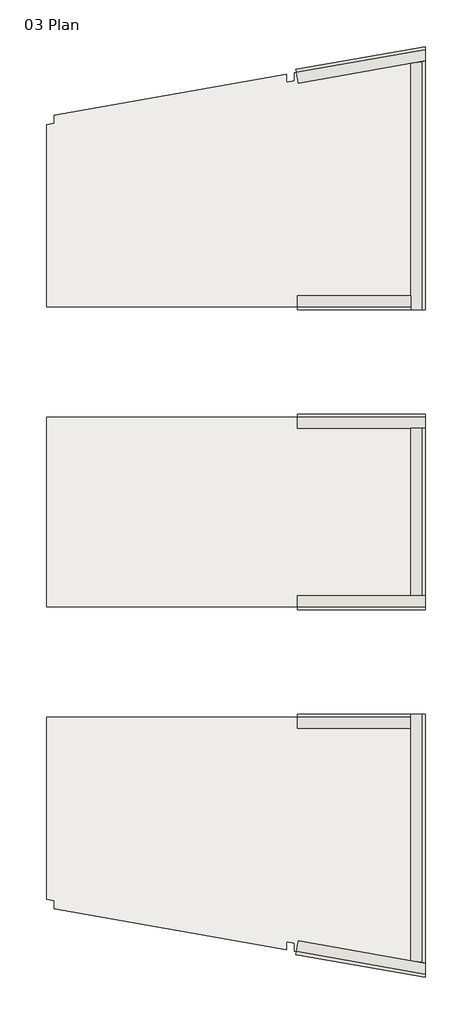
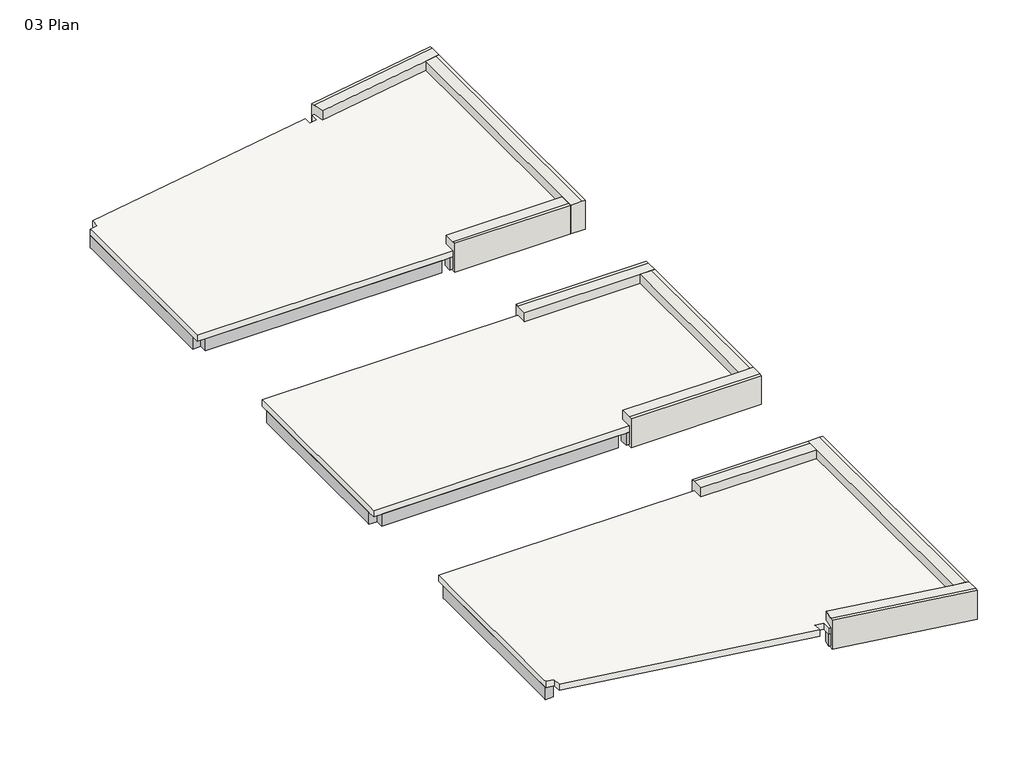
# One storey: 12 beams, 9 walls, 1 slab.
"""IFC4 building model written with IfcOpenShell, lengths in millimetres."""

from ifc_helpers import new_model, si_unit, frame, origin, place, context, project, spatial, polyline, outline, extrude, faceted_brep, element, save

model = new_model("IFC4")

# Units and contexts
model_context = context("Model", 3, world=origin())
ifc_project = project(units=[si_unit("LENGTHUNIT", "METRE", prefix="MILLI")], contexts=[model_context])

# Site, building, storey
site = spatial("IfcSite", under=ifc_project)
building = spatial("IfcBuilding", under=site)
storey = spatial("IfcBuildingStorey", under=building, Name="03 Plan", Elevation=5000.0)

# Beams
placement = place(None, origin())
element("IfcBeam", 1, ObjectType="M_Concrete-Rectangular Beam : Beam_Structural_Generic Showcase_250x500mm", at=placement, inside=storey, context=model_context, shape_type="Brep", body=[
    faceted_brep([(3950.6615063, 6495.5895435, 4400.0), (4050.6615063, 6495.5895435, 4400.0), (7650.6615063, 6495.5895435, 4400.0), (8000.6615063, 6495.5895435, 4400.0), (8000.6615063, 6495.5895435, 4800.0), (3950.6615063, 6495.5895435, 4800.0), (3950.6615063, 6745.5895435, 4400.0), (4050.6615063, 6745.5895435, 4400.0), (7650.6615063, 6745.5895435, 4400.0), (7750.6615063, 6745.5895435, 4400.0), (8000.6615063, 6745.5895435, 4400.0), (3950.6615063, 6745.5895435, 4800.0), (4050.6615063, 6745.5895435, 4800.0), (7650.6615063, 6745.5895435, 4800.0), (7750.6615063, 6745.5895435, 4800.0), (8000.6615063, 6745.5895435, 4800.0)], [[[0, 1, 2, 3, 4, 5]], [[0, 6, 7, 8, 9, 10, 3, 2, 1]], [[10, 9, 8, 7, 6, 11, 12, 13, 14, 15]], [[6, 0, 5, 11]], [[5, 4, 15, 14, 13, 12, 11]], [[3, 10, 15, 4]]]),
    faceted_brep([(-3649.3384937, 6745.5895435, 4400.0), (-3649.3384937, 6495.5895435, 4400.0), (-3649.3384937, 6495.5895435, 4800.0), (-3649.3384937, 6745.5895435, 4800.0), (3700.6615063, 6495.5895435, 4400.0), (3700.6615063, 6745.5895435, 4400.0), (3700.6615063, 6745.5895435, 4800.0), (3700.6615063, 6495.5895435, 4800.0)], [[[0, 1, 2, 3]], [[4, 5, 6, 7]], [[1, 4, 7, 2]], [[1, 0, 5, 4]], [[5, 0, 3, 6]], [[3, 2, 7, 6]]]),
])
element("IfcBeam", 2, ObjectType="M_Concrete-Rectangular Beam : Beam_Structural_Generic Showcase_250x500mm", at=placement, inside=storey, context=model_context, shape_type="Brep", body=[
    faceted_brep([(-3649.3384937, 12245.1229274, 4400.0), (-3899.3384937, 12245.1229274, 4400.0), (-3899.3384937, 12245.1229274, 4800.0), (-3649.3384937, 12245.1229274, 4800.0), (-3649.3384937, 6745.5895435, 4400.0), (-3649.3384937, 6845.5895435, 4400.0), (-3649.3384937, 12200.3620114, 4400.0), (-3649.3384937, 12200.3620114, 4800.0), (-3649.3384937, 6845.5895435, 4800.0), (-3649.3384937, 6745.5895435, 4800.0), (-3899.3384937, 6745.5895435, 4400.0), (-3899.3384937, 6845.5895435, 4400.0), (-3899.3384937, 12156.2802662, 4400.0), (-3899.3384937, 6745.5895435, 4800.0)], [[[0, 1, 2, 3]], [[4, 5, 6, 0, 3, 7, 8, 9]], [[1, 0, 6, 5, 4, 10, 11, 12]], [[1, 12, 11, 10, 13, 2]], [[10, 4, 9, 13]], [[3, 2, 13, 9, 8, 7]]]),
])
element("IfcBeam", 3, ObjectType="M_Concrete-Rectangular Beam : Beam_Structural_Generic Showcase_250x500mm", at=placement, inside=storey, context=model_context, shape_type="Brep", body=[
    faceted_brep([(3963.1685648, 13898.0517108, 4400.0), (4006.5806092, 13651.8497725, 4400.0), (4006.5806092, 13651.8497725, 4800.0), (3963.1685648, 13898.0517108, 4800.0), (4061.4383685, 13661.5226756, 4400.0), (7750.6615063, 14312.0322527, 4400.0), (8000.6615063, 14356.1139978, 4400.0), (8000.6615063, 14356.1139978, 4800.0), (7750.6615063, 14312.0322527, 4800.0), (4061.4383685, 13661.5226756, 4800.0), (4018.0263241, 13907.7246139, 4400.0), (7957.2494619, 14602.3159361, 4400.0), (7957.2494619, 14602.3159361, 4800.0)], [[[0, 1, 2, 3]], [[1, 4, 5, 6, 7, 8, 9, 2]], [[1, 0, 10, 11, 6, 5, 4]], [[11, 10, 0, 3, 12]], [[3, 2, 9, 8, 7, 12]], [[6, 11, 12, 7]]]),
])
element("IfcBeam", 4, ObjectType="M_Concrete-Rectangular Beam : Beam_Structural_Generic Showcase_250x500mm", at=placement, inside=storey, context=model_context, shape_type="Brep", body=[
    faceted_brep([(8000.6615063, 6745.5895435, 4400.0), (8000.6615063, 14254.5713367, 4400.0), (8000.6615063, 14356.1139978, 4400.0), (8000.6615063, 14356.1139978, 4800.0), (8000.6615063, 6745.5895435, 4800.0), (7750.6615063, 6745.5895435, 4400.0), (7750.6615063, 14210.4895915, 4400.0), (7750.6615063, 14312.0322527, 4400.0), (7750.6615063, 6745.5895435, 4800.0), (7750.6615063, 14210.4895915, 4800.0), (7750.6615063, 14312.0322527, 4800.0)], [[[0, 1, 2, 3, 4]], [[0, 5, 6, 7, 2, 1]], [[7, 6, 5, 8, 9, 10]], [[5, 0, 4, 8]], [[2, 7, 10, 3]], [[4, 3, 10, 9, 8]]]),
])
element("IfcBeam", 5, ObjectType="M_Concrete-Rectangular Beam : Beam_Structural_Generic Showcase_250x500mm", at=placement, inside=storey, context=model_context, shape_type="Brep", body=[
    faceted_brep([(3950.6615063, 2745.5895435, 4400.0), (4050.6615063, 2745.5895435, 4400.0), (7750.6615063, 2745.5895435, 4400.0), (8000.6615063, 2745.5895435, 4400.0), (8000.6615063, 2745.5895435, 4800.0), (7750.6615063, 2745.5895435, 4800.0), (4050.6615063, 2745.5895435, 4800.0), (3950.6615063, 2745.5895435, 4800.0), (3950.6615063, 2995.5895435, 4400.0), (4050.6615063, 2995.5895435, 4400.0), (8000.6615063, 2995.5895435, 4400.0), (3950.6615063, 2995.5895435, 4800.0), (8000.6615063, 2995.5895435, 4800.0)], [[[0, 1, 2, 3, 4, 5, 6, 7]], [[0, 8, 9, 10, 3, 2, 1]], [[10, 9, 8, 11, 12]], [[8, 0, 7, 11]], [[7, 6, 5, 4, 12, 11]], [[3, 10, 12, 4]]]),
    faceted_brep([(-3649.3384937, 2995.5895435, 4400.0), (-3649.3384937, 2745.5895435, 4400.0), (-3649.3384937, 2745.5895435, 4800.0), (-3649.3384937, 2995.5895435, 4800.0), (3700.6615063, 2745.5895435, 4400.0), (3700.6615063, 2995.5895435, 4400.0), (3700.6615063, 2995.5895435, 4800.0), (3700.6615063, 2745.5895435, 4800.0)], [[[0, 1, 2, 3]], [[4, 5, 6, 7]], [[1, 4, 7, 2]], [[1, 0, 5, 4]], [[5, 0, 3, 6]], [[3, 2, 7, 6]]]),
])
element("IfcBeam", 6, ObjectType="M_Concrete-Rectangular Beam : Beam_Structural_Generic Showcase_250x500mm", at=placement, inside=storey, context=model_context, shape_type="Brep", body=[
    faceted_brep([(7750.6615063, 2745.5895435, 4400.0), (7750.6615063, 2645.5895435, 4400.0), (7750.6615063, -2654.4104565, 4400.0), (7750.6615063, -2754.4104565, 4400.0), (7750.6615063, -3004.4104565, 4400.0), (7750.6615063, -3004.4104565, 4800.0), (7750.6615063, -2754.4104565, 4800.0), (7750.6615063, -2654.4104565, 4800.0), (7750.6615063, 2645.5895435, 4800.0), (7750.6615063, 2745.5895435, 4800.0), (8000.6615063, 2745.5895435, 4400.0), (8000.6615063, 2645.5895435, 4400.0), (8000.6615063, -2654.4104565, 4400.0), (8000.6615063, -3004.4104565, 4400.0), (8000.6615063, 2745.5895435, 4800.0), (8000.6615063, -3004.4104565, 4800.0)], [[[0, 1, 2, 3, 4, 5, 6, 7, 8, 9]], [[0, 10, 11, 12, 13, 4, 3, 2, 1]], [[13, 12, 11, 10, 14, 15]], [[10, 0, 9, 14]], [[9, 8, 7, 6, 5, 15, 14]], [[4, 13, 15, 5]]]),
])
element("IfcBeam", 7, ObjectType="M_Concrete-Rectangular Beam : Beam_Structural_Generic Showcase_250x500mm", at=placement, inside=storey, context=model_context, shape_type="Brep", body=[
    faceted_brep([(7750.6615063, -2754.4104565, 4400.0), (4050.6615063, -2754.4104565, 4400.0), (3950.6615063, -2754.4104565, 4400.0), (3950.6615063, -2754.4104565, 4800.0), (4050.6615063, -2754.4104565, 4800.0), (7750.6615063, -2754.4104565, 4800.0), (7750.6615063, -3004.4104565, 4400.0), (4050.6615063, -3004.4104565, 4400.0), (3950.6615063, -3004.4104565, 4400.0), (7750.6615063, -3004.4104565, 4800.0), (3950.6615063, -3004.4104565, 4800.0)], [[[0, 1, 2, 3, 4, 5]], [[0, 6, 7, 8, 2, 1]], [[8, 7, 6, 9, 10]], [[6, 0, 5, 9]], [[2, 8, 10, 3]], [[5, 4, 3, 10, 9]]]),
    faceted_brep([(-3649.3384937, -2754.4104565, 4400.0), (-3649.3384937, -3004.4104565, 4400.0), (-3649.3384937, -3004.4104565, 4800.0), (-3649.3384937, -2754.4104565, 4800.0), (3700.6615063, -3004.4104565, 4400.0), (3700.6615063, -2754.4104565, 4400.0), (3700.6615063, -2754.4104565, 4800.0), (3700.6615063, -3004.4104565, 4800.0)], [[[0, 1, 2, 3]], [[4, 5, 6, 7]], [[5, 0, 3, 6]], [[1, 0, 5, 4]], [[1, 4, 7, 2]], [[3, 2, 7, 6]]]),
])
element("IfcBeam", 8, ObjectType="M_Concrete-Rectangular Beam : Beam_Structural_Generic Showcase_250x500mm", at=placement, inside=storey, context=model_context, shape_type="Brep", body=[
    faceted_brep([(-3649.3384937, -2754.4104565, 4400.0), (-3649.3384937, -2654.4104565, 4400.0), (-3649.3384937, 2645.5895435, 4400.0), (-3649.3384937, 2745.5895435, 4400.0), (-3649.3384937, 2745.5895435, 4800.0), (-3649.3384937, 2645.5895435, 4800.0), (-3649.3384937, -2654.4104565, 4800.0), (-3649.3384937, -2754.4104565, 4800.0), (-3899.3384937, 2745.5895435, 4400.0), (-3899.3384937, -2754.4104565, 4400.0), (-3899.3384937, -2654.4104565, 4400.0), (-3899.3384937, 2645.5895435, 4400.0), (-3899.3384937, -2754.4104565, 4800.0), (-3899.3384937, 2745.5895435, 4800.0)], [[[0, 1, 2, 3, 4, 5, 6, 7]], [[8, 3, 2, 1, 0, 9, 10, 11]], [[8, 11, 10, 9, 12, 13]], [[3, 8, 13, 4]], [[9, 0, 7, 12]], [[7, 6, 5, 4, 13, 12]]]),
])
element("IfcBeam", 9, ObjectType="M_Concrete-Rectangular Beam : Beam_Structural_Generic Showcase_250x500mm", at=placement, inside=storey, context=model_context, shape_type="Brep", body=[
    faceted_brep([(8000.6615063, -6504.4104565, 4400.0), (7650.6615063, -6504.4104565, 4400.0), (4050.6615063, -6504.4104565, 4400.0), (3950.6615063, -6504.4104565, 4400.0), (3950.6615063, -6504.4104565, 4800.0), (8000.6615063, -6504.4104565, 4800.0), (3950.6615063, -6754.4104565, 4400.0), (8000.6615063, -6754.4104565, 4400.0), (7750.6615063, -6754.4104565, 4400.0), (7650.6615063, -6754.4104565, 4400.0), (4050.6615063, -6754.4104565, 4400.0), (8000.6615063, -6754.4104565, 4800.0), (7750.6615063, -6754.4104565, 4800.0), (7650.6615063, -6754.4104565, 4800.0), (4050.6615063, -6754.4104565, 4800.0), (3950.6615063, -6754.4104565, 4800.0)], [[[0, 1, 2, 3, 4, 5]], [[6, 3, 2, 1, 0, 7, 8, 9, 10]], [[6, 10, 9, 8, 7, 11, 12, 13, 14, 15]], [[3, 6, 15, 4]], [[5, 4, 15, 14, 13, 12, 11]], [[7, 0, 5, 11]]]),
    faceted_brep([(-3649.3384937, -6504.4104565, 4400.0), (-3649.3384937, -6754.4104565, 4400.0), (-3649.3384937, -6754.4104565, 4800.0), (-3649.3384937, -6504.4104565, 4800.0), (3700.6615063, -6754.4104565, 4400.0), (3700.6615063, -6504.4104565, 4400.0), (3700.6615063, -6504.4104565, 4800.0), (3700.6615063, -6754.4104565, 4800.0)], [[[0, 1, 2, 3]], [[4, 5, 6, 7]], [[5, 0, 3, 6]], [[3, 2, 7, 6]], [[1, 0, 5, 4]], [[1, 4, 7, 2]]]),
])
element("IfcBeam", 10, ObjectType="M_Concrete-Rectangular Beam : Beam_Structural_Generic Showcase_250x500mm", at=placement, inside=storey, context=model_context, shape_type="Brep", body=[
    faceted_brep([(-3899.3384937, -12253.9438404, 4400.0), (-3649.3384937, -12253.9438404, 4400.0), (-3649.3384937, -12253.9438404, 4800.0), (-3899.3384937, -12253.9438404, 4800.0), (-3649.3384937, -12209.1829244, 4400.0), (-3649.3384937, -6854.4104565, 4400.0), (-3649.3384937, -6754.4104565, 4400.0), (-3649.3384937, -6754.4104565, 4800.0), (-3649.3384937, -6854.4104565, 4800.0), (-3649.3384937, -12209.1829244, 4800.0), (-3899.3384937, -12165.1011792, 4400.0), (-3899.3384937, -6854.4104565, 4400.0), (-3899.3384937, -6754.4104565, 4400.0), (-3899.3384937, -6754.4104565, 4800.0)], [[[0, 1, 2, 3]], [[1, 4, 5, 6, 7, 8, 9, 2]], [[1, 0, 10, 11, 12, 6, 5, 4]], [[12, 11, 10, 0, 3, 13]], [[6, 12, 13, 7]], [[3, 2, 9, 8, 7, 13]]]),
])
element("IfcBeam", 11, ObjectType="M_Concrete-Rectangular Beam : Beam_Structural_Generic Showcase_250x500mm", at=placement, inside=storey, context=model_context, shape_type="Brep", body=[
    faceted_brep([(4006.5806092, -13660.6706855, 4400.0), (3963.1685648, -13906.8726238, 4400.0), (3963.1685648, -13906.8726238, 4800.0), (4006.5806092, -13660.6706855, 4800.0), (8000.6615063, -14364.9349108, 4400.0), (7750.6615063, -14320.8531657, 4400.0), (4061.4383685, -13670.3435886, 4400.0), (4061.4383685, -13670.3435886, 4800.0), (7750.6615063, -14320.8531657, 4800.0), (8000.6615063, -14364.9349108, 4800.0), (7957.2494619, -14611.1368491, 4400.0), (4018.0263241, -13916.5455269, 4400.0), (7957.2494619, -14611.1368491, 4800.0)], [[[0, 1, 2, 3]], [[4, 5, 6, 0, 3, 7, 8, 9]], [[1, 0, 6, 5, 4, 10, 11]], [[1, 11, 10, 12, 2]], [[3, 2, 12, 9, 8, 7]], [[10, 4, 9, 12]]]),
])
element("IfcBeam", 12, ObjectType="M_Concrete-Rectangular Beam : Beam_Structural_Generic Showcase_250x500mm", at=placement, inside=storey, context=model_context, shape_type="Brep", body=[
    faceted_brep([(8000.6615063, -14364.9349108, 4400.0), (8000.6615063, -14263.3922497, 4400.0), (8000.6615063, -6754.4104565, 4400.0), (8000.6615063, -6754.4104565, 4800.0), (8000.6615063, -14364.9349108, 4800.0), (7750.6615063, -6754.4104565, 4400.0), (7750.6615063, -14320.8531657, 4400.0), (7750.6615063, -14219.3105045, 4400.0), (7750.6615063, -14320.8531657, 4800.0), (7750.6615063, -14219.3105045, 4800.0), (7750.6615063, -6754.4104565, 4800.0)], [[[0, 1, 2, 3, 4]], [[5, 2, 1, 0, 6, 7]], [[5, 7, 6, 8, 9, 10]], [[2, 5, 10, 3]], [[6, 0, 4, 8]], [[4, 3, 10, 9, 8]]]),
])

# Slab
element("IfcSlab", 13, ObjectType="Floor_Structural_Generic Showcase_200mm", at=placement, inside=storey, context=model_context, shape_type="Brep", body=[
    faceted_brep([(-3899.3384937, 2995.5895435, 4800.0), (-3649.3384937, 2995.5895435, 4800.0), (3700.6615063, 2995.5895435, 4800.0), (3950.6615063, 2995.5895435, 4800.0), (8000.6615063, 2995.5895435, 4800.0), (8000.6615063, 2745.5895435, 4800.0), (8000.6615063, -3004.4104565, 4800.0), (7750.6615063, -3004.4104565, 4800.0), (3950.6615063, -3004.4104565, 4800.0), (3700.6615063, -3004.4104565, 4800.0), (-3649.3384937, -3004.4104565, 4800.0), (-3899.3384937, -3004.4104565, 4800.0), (-3899.3384937, -2754.4104565, 4800.0), (-3899.3384937, 2745.5895435, 4800.0), (8000.6615063, 2995.5895435, 5000.0), (4050.6615063, 2995.5895435, 5000.0), (-3899.3384937, 2995.5895435, 5000.0), (-3899.3384937, 2645.5895435, 5000.0), (-3899.3384937, -2654.4104565, 5000.0), (-3899.3384937, -3004.4104565, 5000.0), (4050.6615063, -3004.4104565, 5000.0), (8000.6615063, -3004.4104565, 5000.0), (8000.6615063, -2654.4104565, 5000.0), (8000.6615063, 2645.5895435, 5000.0)], [[[0, 1, 2, 3, 4, 5, 6, 7, 8, 9, 10, 11, 12, 13]], [[14, 15, 16, 17, 18, 19, 20, 21, 22, 23]], [[4, 3, 2, 1, 0, 16, 15, 14]], [[6, 5, 4, 14, 23, 22, 21]], [[11, 10, 9, 8, 7, 6, 21, 20, 19]], [[0, 13, 12, 11, 19, 18, 17, 16]]]),
    faceted_brep([(-3899.3384937, -6504.4104565, 4800.0), (-3649.3384937, -6504.4104565, 4800.0), (3700.6615063, -6504.4104565, 4800.0), (3950.6615063, -6504.4104565, 4800.0), (8000.6615063, -6504.4104565, 4800.0), (8000.6615063, -6754.4104565, 4800.0), (8000.6615063, -14364.9349108, 4800.0), (8000.6615063, -14618.7915638, 4800.0), (7957.2494619, -14611.1368491, 4800.0), (3963.1685648, -13906.8726238, 4800.0), (3950.6615063, -13904.6672919, 4800.0), (3950.6615063, -13650.810639, 4800.0), (3700.6615063, -13606.7288938, 4800.0), (3700.6615063, -13860.5855468, 4800.0), (-3649.3384937, -12564.5822386, 4800.0), (-3649.3384937, -12310.7255856, 4800.0), (-3899.3384937, -12266.6438404, 4800.0), (-3899.3384937, -12253.9438404, 4800.0), (-3899.3384937, -6754.4104565, 4800.0), (8000.6615063, -6504.4104565, 5000.0), (7650.6615063, -6504.4104565, 5000.0), (4050.6615063, -6504.4104565, 5000.0), (-3899.3384937, -6504.4104565, 5000.0), (-3899.3384937, -6854.4104565, 5000.0), (-3899.3384937, -12165.1011792, 5000.0), (-3899.3384937, -12266.6438404, 5000.0), (-3649.3384937, -12310.7255856, 5000.0), (-3649.3384937, -12564.5822386, 5000.0), (3700.6615063, -13860.5855468, 5000.0), (3700.6615063, -13606.7288938, 5000.0), (3950.6615063, -13650.810639, 5000.0), (3950.6615063, -13904.6672919, 5000.0), (4018.0263241, -13916.5455269, 5000.0), (8000.6615063, -14618.7915638, 5000.0), (8000.6615063, -14263.3922497, 5000.0)], [[[0, 1, 2, 3, 4, 5, 6, 7, 8, 9, 10, 11, 12, 13, 14, 15, 16, 17, 18]], [[19, 20, 21, 22, 23, 24, 25, 26, 27, 28, 29, 30, 31, 32, 33, 34]], [[4, 3, 2, 1, 0, 22, 21, 20, 19]], [[7, 6, 5, 4, 19, 34, 33]], [[7, 33, 32, 31, 10, 9, 8]], [[14, 13, 28, 27]], [[22, 0, 18, 17, 16, 25, 24, 23]], [[15, 26, 25, 16]], [[26, 15, 14, 27]], [[12, 29, 28, 13]], [[29, 12, 11, 30]], [[30, 11, 10, 31]]]),
    faceted_brep([(8000.6615063, 14609.9706508, 4800.0), (8000.6615063, 14356.1139978, 4800.0), (8000.6615063, 6745.5895435, 4800.0), (8000.6615063, 6495.5895435, 4800.0), (3950.6615063, 6495.5895435, 4800.0), (3700.6615063, 6495.5895435, 4800.0), (-3649.3384937, 6495.5895435, 4800.0), (-3899.3384937, 6495.5895435, 4800.0), (-3899.3384937, 6745.5895435, 4800.0), (-3899.3384937, 12245.1229274, 4800.0), (-3899.3384937, 12257.8229274, 4800.0), (-3649.3384937, 12301.9046726, 4800.0), (-3649.3384937, 12555.7613256, 4800.0), (3700.6615063, 13851.7646338, 4800.0), (3700.6615063, 13597.9079808, 4800.0), (3950.6615063, 13641.989726, 4800.0), (3950.6615063, 13895.8463789, 4800.0), (3963.1685648, 13898.0517108, 4800.0), (7957.2494619, 14602.3159361, 4800.0), (8000.6615063, 6495.5895435, 5000.0), (8000.6615063, 14254.5713367, 5000.0), (8000.6615063, 14609.9706508, 5000.0), (4018.0263241, 13907.7246139, 5000.0), (3950.6615063, 13895.8463789, 5000.0), (3950.6615063, 13641.989726, 5000.0), (3700.6615063, 13597.9079808, 5000.0), (3700.6615063, 13851.7646338, 5000.0), (-3649.3384937, 12555.7613256, 5000.0), (-3649.3384937, 12301.9046726, 5000.0), (-3899.3384937, 12257.8229274, 5000.0), (-3899.3384937, 12156.2802662, 5000.0), (-3899.3384937, 6845.5895435, 5000.0), (-3899.3384937, 6495.5895435, 5000.0), (4050.6615063, 6495.5895435, 5000.0), (7650.6615063, 6495.5895435, 5000.0)], [[[0, 1, 2, 3, 4, 5, 6, 7, 8, 9, 10, 11, 12, 13, 14, 15, 16, 17, 18]], [[19, 20, 21, 22, 23, 24, 25, 26, 27, 28, 29, 30, 31, 32, 33, 34]], [[21, 0, 18, 17, 16, 23, 22]], [[13, 12, 27, 26]], [[3, 2, 1, 0, 21, 20, 19]], [[7, 6, 5, 4, 3, 19, 34, 33, 32]], [[7, 32, 31, 30, 29, 10, 9, 8]], [[28, 11, 10, 29]], [[11, 28, 27, 12]], [[25, 14, 13, 26]], [[14, 25, 24, 15]], [[15, 24, 23, 16]]]),
])

# Walls
element("IfcWall", 14, ObjectType="Wall_Exterior_Generic Showcase_450mm", at=placement, inside=storey, context=model_context, shape_type="Brep", body=[
    faceted_brep([(4000.6615063, -14015.0263022, 5300.0), (4000.6615063, -14015.0263022, 4350.0), (8100.6615063, -14737.9669231, 4350.0), (8100.6615063, -14737.9669231, 5300.0), (8100.6615063, -14281.0249477, 4350.0), (7650.6615063, -14201.6778064, 4350.0), (4078.8031863, -13571.8628133, 4350.0), (4078.8031863, -13571.8628133, 4800.0), (7650.6615063, -14201.6778064, 4800.0), (7750.6615063, -14219.3105045, 4800.0), (7750.6615063, -14219.3105045, 4400.0), (8000.6615063, -14263.3922497, 4400.0), (8000.6615063, -14263.3922497, 5000.0), (7650.6615063, -14201.6778064, 5000.0), (4078.8031863, -13571.8628133, 5000.0), (4078.8031863, -13571.8628133, 5300.0), (7650.6615063, -14201.6778064, 5300.0), (8100.6615063, -14281.0249477, 5300.0), (4018.0263241, -13916.5455269, 5300.0), (4018.0263241, -13916.5455269, 5000.0), (4018.0263241, -13916.5455269, 4400.0), (4061.4383685, -13670.3435886, 4400.0), (4061.4383685, -13670.3435886, 4800.0), (4018.0263241, -13916.5455269, 4350.0), (8100.6615063, -14636.4242619, 4350.0), (8100.6615063, -14636.4242619, 5300.0), (7750.6615063, -14320.8531657, 4800.0), (7957.2494619, -14611.1368491, 4800.0), (8000.6615063, -14618.7915638, 4800.0), (8000.6615063, -14364.9349108, 4800.0), (8000.6615063, -14618.7915638, 5000.0), (8000.6615063, -14364.9349108, 4400.0), (7957.2494619, -14611.1368491, 4400.0), (7750.6615063, -14320.8531657, 4400.0)], [[[0, 1, 2, 3]], [[4, 5, 6, 7, 8, 9, 10, 11, 12, 13, 14, 15, 16, 17]], [[1, 0, 18, 15, 14, 19, 20, 21, 22, 7, 6, 23]], [[3, 2, 24, 4, 17, 25]], [[7, 22, 26, 9, 8]], [[27, 28, 29]], [[12, 30, 19, 14, 13]], [[28, 30, 12, 11, 31, 29]], [[30, 28, 27, 32, 20, 19]], [[22, 21, 33, 26]], [[32, 31, 11, 10, 33, 21, 20]], [[31, 32, 27, 29]], [[33, 10, 9, 26]], [[6, 5, 4, 24, 23]], [[2, 1, 23, 24]], [[17, 16, 15, 18, 25]], [[0, 3, 25, 18]]]),
])
element("IfcWall", 15, ObjectType="Wall_Exterior_Generic Showcase_450mm", at=placement, inside=storey, context=model_context, shape_type="Brep", body=[
    faceted_brep([(8100.6615063, -6404.4104565, 4350.0), (8100.6615063, -6404.4104565, 5300.0), (8100.6615063, -14281.0249477, 5300.0), (8100.6615063, -14281.0249477, 4350.0), (7650.6615063, -6404.4104565, 4350.0), (7650.6615063, -6854.4104565, 4350.0), (7650.6615063, -14201.6778064, 4350.0), (7650.6615063, -14201.6778064, 4800.0), (7650.6615063, -6854.4104565, 4800.0), (7650.6615063, -6754.4104565, 4800.0), (7650.6615063, -6754.4104565, 4400.0), (7650.6615063, -6504.4104565, 4400.0), (7650.6615063, -6504.4104565, 5000.0), (7650.6615063, -6854.4104565, 5000.0), (7650.6615063, -14201.6778064, 5000.0), (7650.6615063, -14201.6778064, 5300.0), (7650.6615063, -6854.4104565, 5300.0), (7650.6615063, -6404.4104565, 5300.0), (8000.6615063, -6404.4104565, 4350.0), (8000.6615063, -6404.4104565, 5300.0), (8000.6615063, -14263.3922497, 5300.0), (8000.6615063, -14263.3922497, 5000.0), (8000.6615063, -14263.3922497, 4400.0), (7750.6615063, -14219.3105045, 4400.0), (7750.6615063, -14219.3105045, 4800.0), (8000.6615063, -14263.3922497, 4350.0), (7750.6615063, -6754.4104565, 4800.0), (8000.6615063, -6504.4104565, 5000.0), (8000.6615063, -6504.4104565, 4800.0), (8000.6615063, -6504.4104565, 4400.0), (8000.6615063, -6754.4104565, 4400.0), (7750.6615063, -6754.4104565, 4400.0)], [[[0, 1, 2, 3]], [[4, 5, 6, 7, 8, 9, 10, 11, 12, 13, 14, 15, 16, 17]], [[1, 0, 18, 4, 17, 19]], [[3, 2, 20, 15, 14, 21, 22, 23, 24, 7, 6, 25]], [[7, 24, 26, 9, 8]], [[27, 21, 14, 13, 12]], [[21, 27, 28, 29, 30, 22]], [[23, 22, 30, 29, 11, 10, 31]], [[24, 23, 31, 26]], [[27, 12, 11, 29, 28]], [[31, 10, 9, 26]], [[6, 5, 4, 18, 25]], [[0, 3, 25, 18]], [[17, 16, 15, 20, 19]], [[2, 1, 19, 20]]]),
])
element("IfcWall", 16, ObjectType="Wall_Exterior_Generic Showcase_450mm", at=placement, inside=storey, context=model_context, shape_type="SweptSolid", body=[
    extrude(outline(polyline([(-6404.4104565, 5300.0), (-6404.4104565, 4350.0), (-6504.4104565, 4350.0), (-6854.4104565, 4350.0), (-6854.4104565, 4800.0), (-6754.4104565, 4800.0), (-6754.4104565, 4400.0), (-6504.4104565, 4400.0), (-6504.4104565, 5000.0), (-6854.4104565, 5000.0), (-6854.4104565, 5300.0), (-6504.4104565, 5300.0), (-6404.4104565, 5300.0)])), frame((4050.6615063, 0.0, 0.0), z_axis=(1.0, 0.0, 0.0), x_axis=(0.0, 1.0, 0.0)), (0.0, 0.0, 1.0), 3600.0),
])
element("IfcWall", 17, ObjectType="Wall_Exterior_Generic Showcase_450mm", at=placement, inside=storey, context=model_context, shape_type="Brep", body=[
    faceted_brep([(8100.6615063, -2654.4104565, 4350.0), (7650.6615063, -2654.4104565, 4350.0), (4050.6615063, -2654.4104565, 4350.0), (4050.6615063, -2654.4104565, 4800.0), (7650.6615063, -2654.4104565, 4800.0), (7750.6615063, -2654.4104565, 4800.0), (7750.6615063, -2654.4104565, 4400.0), (8000.6615063, -2654.4104565, 4400.0), (8000.6615063, -2654.4104565, 5000.0), (7650.6615063, -2654.4104565, 5000.0), (4050.6615063, -2654.4104565, 5000.0), (4050.6615063, -2654.4104565, 5300.0), (7650.6615063, -2654.4104565, 5300.0), (8100.6615063, -2654.4104565, 5300.0), (4050.6615063, -3104.4104565, 5300.0), (4050.6615063, -3104.4104565, 4350.0), (8100.6615063, -3104.4104565, 4350.0), (8100.6615063, -3104.4104565, 5300.0), (4050.6615063, -3004.4104565, 5300.0), (4050.6615063, -3004.4104565, 5000.0), (4050.6615063, -3004.4104565, 4400.0), (4050.6615063, -2754.4104565, 4400.0), (4050.6615063, -2754.4104565, 4800.0), (4050.6615063, -3004.4104565, 4350.0), (7750.6615063, -2754.4104565, 4800.0), (8000.6615063, -3004.4104565, 5000.0), (8000.6615063, -3004.4104565, 4400.0), (8000.6615063, -3004.4104565, 4800.0), (7750.6615063, -3004.4104565, 4400.0), (7750.6615063, -2754.4104565, 4400.0), (8100.6615063, -3004.4104565, 5300.0), (8100.6615063, -3004.4104565, 4350.0)], [[[0, 1, 2, 3, 4, 5, 6, 7, 8, 9, 10, 11, 12, 13]], [[14, 15, 16, 17]], [[15, 14, 18, 11, 10, 19, 20, 21, 22, 3, 2, 23]], [[3, 22, 24, 5, 4]], [[8, 25, 19, 10, 9]], [[25, 8, 7, 26, 27]], [[19, 25, 27, 26, 28, 20]], [[22, 21, 29, 24]], [[21, 20, 28, 26, 7, 6, 29]], [[29, 6, 5, 24]], [[0, 13, 30, 17, 16, 31]], [[2, 1, 0, 31, 23]], [[31, 16, 15, 23]], [[13, 12, 11, 18, 30]], [[18, 14, 17, 30]]]),
])
element("IfcWall", 18, ObjectType="Wall_Exterior_Generic Showcase_450mm", at=placement, inside=storey, context=model_context, shape_type="Brep", body=[
    faceted_brep([(4050.6615063, 3095.5895435, 4350.0), (4050.6615063, 3095.5895435, 5300.0), (8100.6615063, 3095.5895435, 5300.0), (8100.6615063, 3095.5895435, 4350.0), (4050.6615063, 2645.5895435, 4350.0), (7650.6615063, 2645.5895435, 4350.0), (8100.6615063, 2645.5895435, 4350.0), (8100.6615063, 2645.5895435, 5300.0), (7650.6615063, 2645.5895435, 5300.0), (4050.6615063, 2645.5895435, 5300.0), (4050.6615063, 2645.5895435, 5000.0), (7650.6615063, 2645.5895435, 5000.0), (8000.6615063, 2645.5895435, 5000.0), (8000.6615063, 2645.5895435, 4400.0), (7750.6615063, 2645.5895435, 4400.0), (7750.6615063, 2645.5895435, 4800.0), (7650.6615063, 2645.5895435, 4800.0), (4050.6615063, 2645.5895435, 4800.0), (4050.6615063, 2995.5895435, 4350.0), (4050.6615063, 2745.5895435, 4800.0), (4050.6615063, 2745.5895435, 4400.0), (4050.6615063, 2995.5895435, 4400.0), (4050.6615063, 2995.5895435, 5000.0), (4050.6615063, 2995.5895435, 5300.0), (7750.6615063, 2745.5895435, 4400.0), (7750.6615063, 2745.5895435, 4800.0), (8000.6615063, 2745.5895435, 4400.0), (8000.6615063, 2995.5895435, 4400.0), (8000.6615063, 2995.5895435, 5000.0), (8000.6615063, 2995.5895435, 4800.0), (8100.6615063, 2995.5895435, 5300.0), (8100.6615063, 2995.5895435, 4350.0)], [[[0, 1, 2, 3]], [[4, 5, 6, 7, 8, 9, 10, 11, 12, 13, 14, 15, 16, 17]], [[1, 0, 18, 4, 17, 19, 20, 21, 22, 10, 9, 23]], [[14, 24, 25, 15]], [[14, 13, 26, 27, 21, 20, 24]], [[27, 26, 13, 12, 28, 29]], [[24, 20, 19, 25]], [[17, 16, 15, 25, 19]], [[22, 28, 12, 11, 10]], [[3, 2, 30, 7, 6, 31]], [[6, 5, 4, 18, 31]], [[0, 3, 31, 18]], [[9, 8, 7, 30, 23]], [[2, 1, 23, 30]], [[21, 27, 29, 28, 22]]]),
])
element("IfcWall", 19, ObjectType="Wall_Exterior_Generic Showcase_450mm", at=placement, inside=storey, context=model_context, shape_type="SweptSolid", body=[
    extrude(outline(polyline([(4350.0, 8100.6615063), (5300.0, 8100.6615063), (5300.0, 8000.6615063), (5300.0, 7650.6615063), (5000.0, 7650.6615063), (5000.0, 8000.6615063), (4400.0, 8000.6615063), (4400.0, 7750.6615063), (4800.0, 7750.6615063), (4800.0, 7650.6615063), (4350.0, 7650.6615063), (4350.0, 8000.6615063), (4350.0, 8100.6615063)])), frame((0.0, -2654.4104565, 0.0), z_axis=(0.0, 1.0, 0.0), x_axis=(0.0, 0.0, 1.0)), (0.0, 0.0, 1.0), 5300.0),
])
element("IfcWall", 20, ObjectType="Wall_Exterior_Generic Showcase_450mm", at=placement, inside=storey, context=model_context, shape_type="Brep", body=[
    faceted_brep([(4078.8031863, 13563.0419003, 4350.0), (7650.6615063, 14192.8568934, 4350.0), (8100.6615063, 14272.2040347, 4350.0), (8100.6615063, 14272.2040347, 5300.0), (7650.6615063, 14192.8568934, 5300.0), (4078.8031863, 13563.0419003, 5300.0), (4078.8031863, 13563.0419003, 5000.0), (7650.6615063, 14192.8568934, 5000.0), (8000.6615063, 14254.5713367, 5000.0), (8000.6615063, 14254.5713367, 4400.0), (7750.6615063, 14210.4895915, 4400.0), (7750.6615063, 14210.4895915, 4800.0), (7650.6615063, 14192.8568934, 4800.0), (4078.8031863, 13563.0419003, 4800.0), (4000.6615063, 14006.2053892, 4350.0), (4000.6615063, 14006.2053892, 5300.0), (8100.6615063, 14729.1460101, 5300.0), (8100.6615063, 14729.1460101, 4350.0), (4018.0263241, 13907.7246139, 4350.0), (4061.4383685, 13661.5226756, 4800.0), (4061.4383685, 13661.5226756, 4400.0), (4018.0263241, 13907.7246139, 4400.0), (4018.0263241, 13907.7246139, 5000.0), (4018.0263241, 13907.7246139, 5300.0), (8100.6615063, 14627.6033489, 4350.0), (8100.6615063, 14627.6033489, 5300.0), (7750.6615063, 14312.0322527, 4800.0), (8000.6615063, 14356.1139978, 4800.0), (8000.6615063, 14609.9706508, 4800.0), (7957.2494619, 14602.3159361, 4800.0), (8000.6615063, 14609.9706508, 5000.0), (7957.2494619, 14602.3159361, 4400.0), (8000.6615063, 14356.1139978, 4400.0), (7750.6615063, 14312.0322527, 4400.0)], [[[0, 1, 2, 3, 4, 5, 6, 7, 8, 9, 10, 11, 12, 13]], [[14, 15, 16, 17]], [[15, 14, 18, 0, 13, 19, 20, 21, 22, 6, 5, 23]], [[3, 2, 24, 17, 16, 25]], [[13, 12, 11, 26, 19]], [[27, 28, 29]], [[22, 30, 8, 7, 6]], [[28, 30, 22, 21, 31, 29]], [[30, 28, 27, 32, 9, 8]], [[31, 21, 20, 33, 10, 9, 32]], [[11, 10, 33, 26]], [[31, 32, 27, 29]], [[33, 20, 19, 26]], [[2, 1, 0, 18, 24]], [[18, 14, 17, 24]], [[5, 4, 3, 25, 23]], [[25, 16, 15, 23]]]),
])
element("IfcWall", 21, ObjectType="Wall_Exterior_Generic Showcase_450mm", at=placement, inside=storey, context=model_context, shape_type="Brep", body=[
    faceted_brep([(7650.6615063, 14192.8568934, 4350.0), (7650.6615063, 6845.5895435, 4350.0), (7650.6615063, 6395.5895435, 4350.0), (7650.6615063, 6395.5895435, 5300.0), (7650.6615063, 6845.5895435, 5300.0), (7650.6615063, 14192.8568934, 5300.0), (7650.6615063, 14192.8568934, 5000.0), (7650.6615063, 6845.5895435, 5000.0), (7650.6615063, 6495.5895435, 5000.0), (7650.6615063, 6495.5895435, 4400.0), (7650.6615063, 6745.5895435, 4400.0), (7650.6615063, 6745.5895435, 4800.0), (7650.6615063, 6845.5895435, 4800.0), (7650.6615063, 14192.8568934, 4800.0), (8100.6615063, 14272.2040347, 4350.0), (8100.6615063, 14272.2040347, 5300.0), (8100.6615063, 6395.5895435, 5300.0), (8100.6615063, 6395.5895435, 4350.0), (8000.6615063, 14254.5713367, 4350.0), (7750.6615063, 14210.4895915, 4800.0), (7750.6615063, 14210.4895915, 4400.0), (8000.6615063, 14254.5713367, 4400.0), (8000.6615063, 14254.5713367, 5000.0), (8000.6615063, 14254.5713367, 5300.0), (8000.6615063, 6395.5895435, 4350.0), (8000.6615063, 6395.5895435, 5300.0), (7750.6615063, 6745.5895435, 4800.0), (8000.6615063, 6495.5895435, 5000.0), (8000.6615063, 6745.5895435, 4400.0), (8000.6615063, 6495.5895435, 4400.0), (8000.6615063, 6495.5895435, 4800.0), (7750.6615063, 6745.5895435, 4400.0)], [[[0, 1, 2, 3, 4, 5, 6, 7, 8, 9, 10, 11, 12, 13]], [[14, 15, 16, 17]], [[15, 14, 18, 0, 13, 19, 20, 21, 22, 6, 5, 23]], [[3, 2, 24, 17, 16, 25]], [[19, 13, 12, 11, 26]], [[22, 27, 8, 7, 6]], [[21, 28, 29, 30, 27, 22]], [[8, 27, 30, 29, 9]], [[21, 20, 31, 10, 9, 29, 28]], [[20, 19, 26, 31]], [[10, 31, 26, 11]], [[2, 1, 0, 18, 24]], [[18, 14, 17, 24]], [[5, 4, 3, 25, 23]], [[25, 16, 15, 23]]]),
])
element("IfcWall", 22, ObjectType="Wall_Exterior_Generic Showcase_450mm", at=placement, inside=storey, context=model_context, shape_type="SweptSolid", body=[
    extrude(outline(polyline([(6395.5895435, 4350.0), (6395.5895435, 5300.0), (6495.5895435, 5300.0), (6845.5895435, 5300.0), (6845.5895435, 5000.0), (6495.5895435, 5000.0), (6495.5895435, 4400.0), (6745.5895435, 4400.0), (6745.5895435, 4800.0), (6845.5895435, 4800.0), (6845.5895435, 4350.0), (6495.5895435, 4350.0), (6395.5895435, 4350.0)])), frame((4050.6615063, 0.0, 0.0), z_axis=(1.0, 0.0, 0.0), x_axis=(0.0, 1.0, 0.0)), (0.0, 0.0, 1.0), 3600.0),
])

save(model, "model.ifc")
